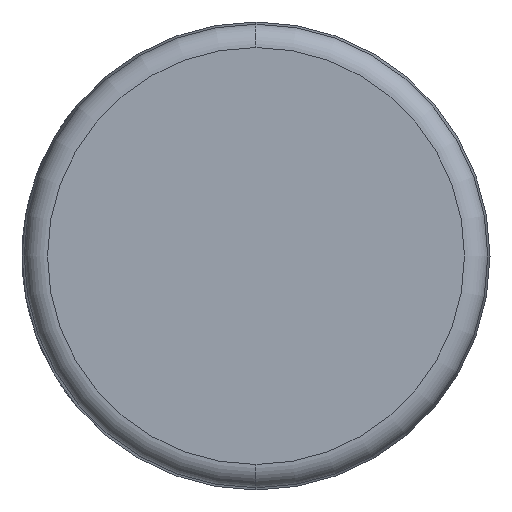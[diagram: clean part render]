
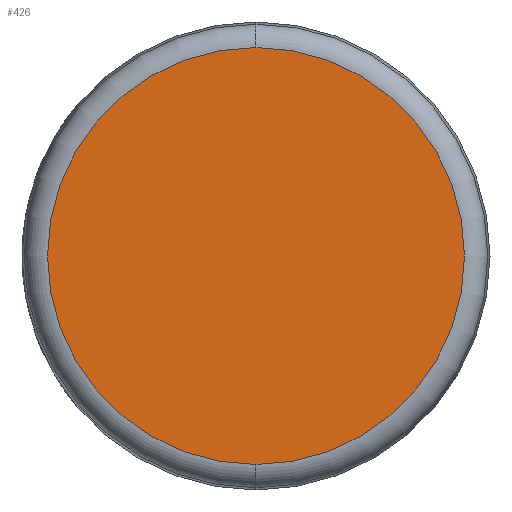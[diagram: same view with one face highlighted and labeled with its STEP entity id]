
A CAD part, left-side view. The second image highlights one B-rep face of the part: STEP entity #426.
In plain terms, the highlighted planar face has unit normal (-1, 0, 0).
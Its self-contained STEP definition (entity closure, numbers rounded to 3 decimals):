
#20 = ORIENTED_EDGE ( 'NONE', *, *, #580, .T. ) ;
#69 = AXIS2_PLACEMENT_3D ( 'NONE', #359, #456, #151 ) ;
#92 = AXIS2_PLACEMENT_3D ( 'NONE', #568, #572, #225 ) ;
#99 = VERTEX_POINT ( 'NONE', #222 ) ;
#111 = FACE_OUTER_BOUND ( 'NONE', #539, .T. ) ;
#151 = DIRECTION ( 'NONE',  ( 0., 0., -1. ) ) ;
#167 = PLANE ( 'NONE',  #92 ) ;
#169 = CIRCLE ( 'NONE', #69, 22.272 ) ;
#175 = EDGE_CURVE ( 'NONE', #99, #611, #169, .T. ) ;
#222 = CARTESIAN_POINT ( 'NONE',  ( 0., 0., 22.272 ) ) ;
#225 = DIRECTION ( 'NONE',  ( 0., 0., -1. ) ) ;
#239 = DIRECTION ( 'NONE',  ( -1., 0., 0. ) ) ;
#243 = CARTESIAN_POINT ( 'NONE',  ( 0., 0., -22.272 ) ) ;
#359 = CARTESIAN_POINT ( 'NONE',  ( 0., 0., 0. ) ) ;
#426 = ADVANCED_FACE ( 'NONE', ( #111 ), #167, .F. ) ;
#431 = AXIS2_PLACEMENT_3D ( 'NONE', #593, #239, #652 ) ;
#445 = CIRCLE ( 'NONE', #431, 22.272 ) ;
#456 = DIRECTION ( 'NONE',  ( -1., 0., 0. ) ) ;
#539 = EDGE_LOOP ( 'NONE', ( #20, #650 ) ) ;
#568 = CARTESIAN_POINT ( 'NONE',  ( 0., 0., 0. ) ) ;
#572 = DIRECTION ( 'NONE',  ( 1., 0., 0. ) ) ;
#580 = EDGE_CURVE ( 'NONE', #611, #99, #445, .T. ) ;
#593 = CARTESIAN_POINT ( 'NONE',  ( 0., 0., 0. ) ) ;
#611 = VERTEX_POINT ( 'NONE', #243 ) ;
#650 = ORIENTED_EDGE ( 'NONE', *, *, #175, .T. ) ;
#652 = DIRECTION ( 'NONE',  ( 0., 0., -1. ) ) ;
